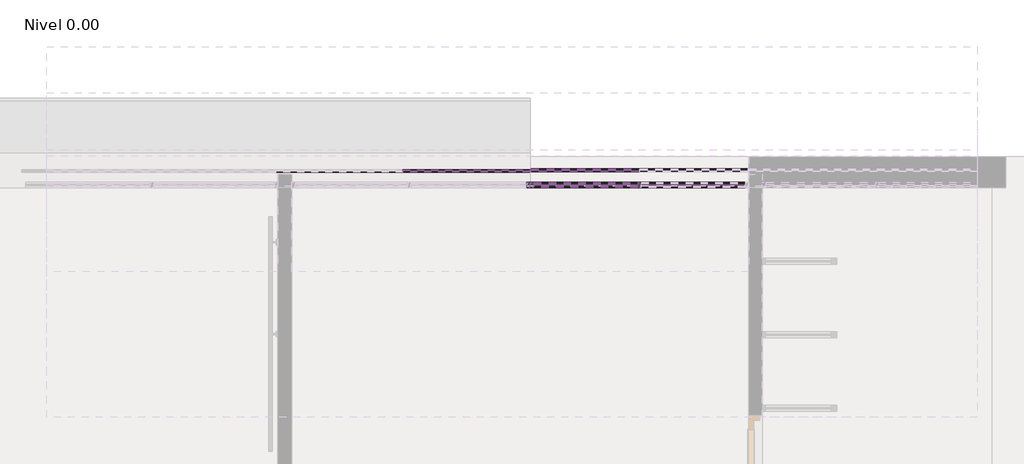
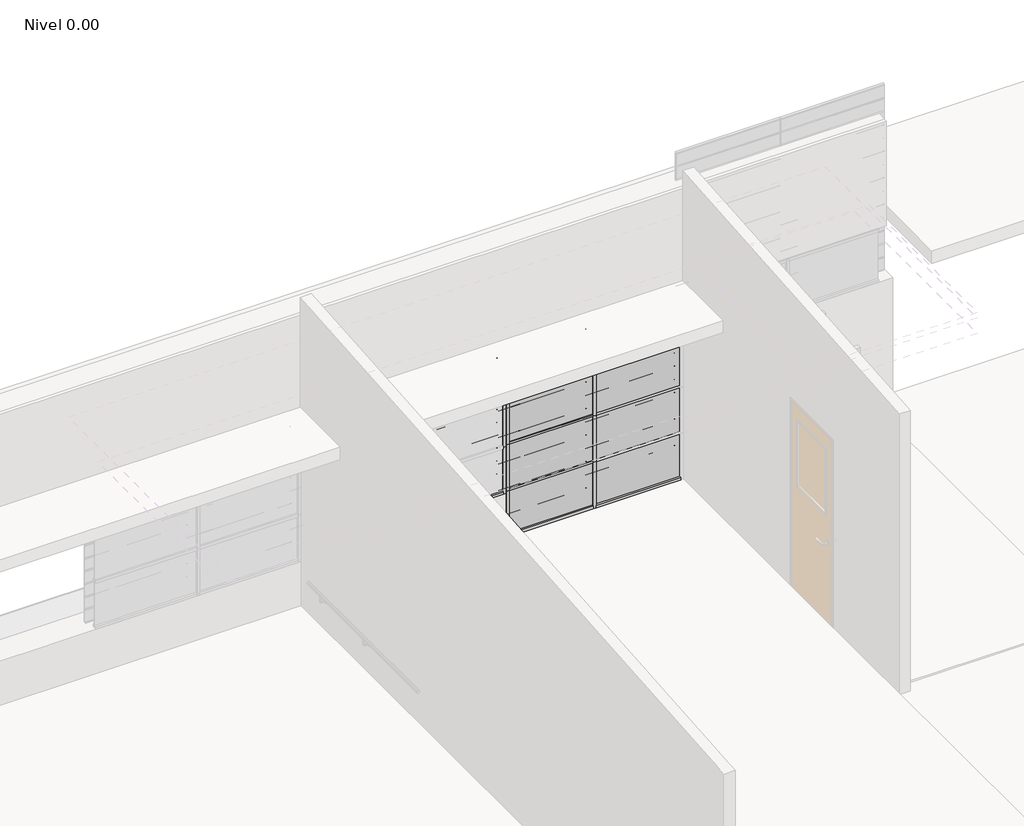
# One storey, part 19 of 27: 97 members, 38 plates.
"""IFC4 building model written with IfcOpenShell, lengths in millimetres."""

from ifc_helpers import new_model, si_unit, origin, place, context, project, spatial, transform, mapped, element, save
from components import circular_mullion_f540d6b4, circular_mullion_e1cfff8a, l_corner_mullion_285056ba, l_corner_mullion_de296168, rectangular_mullion_fd73bc33, rectangular_mullion_62a8ddbd, rectangular_mullion_2cbd8fee, rectangular_mullion_4ef2b083, rectangular_mullion_f7ba8490, rectangular_mullion_caa13081, rectangular_mullion_4732226b, rectangular_mullion_bccfeea3, rectangular_mullion_bc77bd75, rectangular_mullion_9fa35bb9, system_panel_6a406881, system_panel_bc75342b, system_panel_30204105, system_panel_792cbea5, system_panel_glazed_32a98a9a, system_panel_glazed_62ff626e

model = new_model("IFC4")

# Units and contexts
model_context = context("Model", 3, world=origin())
ifc_project = project(units=[si_unit("LENGTHUNIT", "METRE", prefix="MILLI")], contexts=[model_context])

# Site, building, storey
site = spatial("IfcSite", under=ifc_project)
building = spatial("IfcBuilding", under=site)
storey = spatial("IfcBuildingStorey", under=building, Name="Nivel 0.00", Elevation=0.0)

# Members
placement = place(None, origin())
circular_mullion_shape = circular_mullion_f540d6b4(model_context)
element("IfcMember", 1, ObjectType="Circular Mullion : ARQ_HERR_16mm", at=placement, inside=storey, context=model_context, shape_type="MappedRepresentation", body=[
    mapped(circular_mullion_shape, transform((227.3836074, 6959.4278548, 645.4545455), x_axis=(0.0, 0.0, 1.0), y_axis=(0.0, 1.0, 0.0), z_axis=(-1.0, 0.0, 0.0))),
])
element("IfcMember", 2, ObjectType="Circular Mullion : ARQ_HERR_16mm", at=placement, inside=storey, context=model_context, shape_type="MappedRepresentation", body=[
    mapped(circular_mullion_shape, transform((227.3836074, 6959.4278548, 790.9090909), x_axis=(0.0, 0.0, 1.0), y_axis=(0.0, 1.0, 0.0), z_axis=(-1.0, 0.0, 0.0))),
])
element("IfcMember", 3, ObjectType="Circular Mullion : ARQ_HERR_16mm", at=placement, inside=storey, context=model_context, shape_type="MappedRepresentation", body=[
    mapped(circular_mullion_shape, transform((227.3836074, 6959.4278548, 936.3636364), x_axis=(0.0, 0.0, 1.0), y_axis=(0.0, 1.0, 0.0), z_axis=(-1.0, 0.0, 0.0))),
])
element("IfcMember", 4, ObjectType="Circular Mullion : ARQ_HERR_16mm", at=placement, inside=storey, context=model_context, shape_type="MappedRepresentation", body=[
    mapped(circular_mullion_shape, transform((227.3836074, 6959.4278548, 1081.8181818), x_axis=(0.0, 0.0, 1.0), y_axis=(0.0, 1.0, 0.0), z_axis=(-1.0, 0.0, 0.0))),
])
element("IfcMember", 5, ObjectType="Circular Mullion : ARQ_HERR_16mm", at=placement, inside=storey, context=model_context, shape_type="MappedRepresentation", body=[
    mapped(circular_mullion_shape, transform((227.3836074, 6959.4278548, 1227.2727273), x_axis=(0.0, 0.0, 1.0), y_axis=(0.0, 1.0, 0.0), z_axis=(-1.0, 0.0, 0.0))),
])
element("IfcMember", 6, ObjectType="Circular Mullion : ARQ_HERR_16mm", at=placement, inside=storey, context=model_context, shape_type="MappedRepresentation", body=[
    mapped(circular_mullion_shape, transform((227.3836074, 6959.4278548, 1372.7272727), x_axis=(0.0, 0.0, 1.0), y_axis=(0.0, 1.0, 0.0), z_axis=(-1.0, 0.0, 0.0))),
])
element("IfcMember", 7, ObjectType="Circular Mullion : ARQ_HERR_16mm", at=placement, inside=storey, context=model_context, shape_type="MappedRepresentation", body=[
    mapped(circular_mullion_shape, transform((227.3836074, 6959.4278548, 1518.1818182), x_axis=(0.0, 0.0, 1.0), y_axis=(0.0, 1.0, 0.0), z_axis=(-1.0, 0.0, 0.0))),
])
element("IfcMember", 8, ObjectType="Circular Mullion : ARQ_HERR_16mm", at=placement, inside=storey, context=model_context, shape_type="MappedRepresentation", body=[
    mapped(circular_mullion_shape, transform((227.3836074, 6959.4278548, 1663.6363636), x_axis=(0.0, 0.0, 1.0), y_axis=(0.0, 1.0, 0.0), z_axis=(-1.0, 0.0, 0.0))),
])
element("IfcMember", 9, ObjectType="Circular Mullion : ARQ_HERR_16mm", at=placement, inside=storey, context=model_context, shape_type="MappedRepresentation", body=[
    mapped(circular_mullion_shape, transform((227.3836074, 6959.4278548, 1809.0909091), x_axis=(0.0, 0.0, 1.0), y_axis=(0.0, 1.0, 0.0), z_axis=(-1.0, 0.0, 0.0))),
])
element("IfcMember", 10, ObjectType="Circular Mullion : ARQ_HERR_16mm", at=placement, inside=storey, context=model_context, shape_type="MappedRepresentation", body=[
    mapped(circular_mullion_shape, transform((227.3836074, 6959.4278548, 1954.5454545), x_axis=(0.0, 0.0, 1.0), y_axis=(0.0, 1.0, 0.0), z_axis=(-1.0, 0.0, 0.0))),
])
circular_mullion_2_shape = circular_mullion_e1cfff8a(model_context)
element("IfcMember", 11, ObjectType="Circular Mullion : ARQ_HERR_16mm", at=placement, inside=storey, context=model_context, shape_type="MappedRepresentation", body=[
    mapped(circular_mullion_2_shape, transform((2281.6892154, 6959.43912, 150.0), x_axis=(0.0, 0.0, 1.0), y_axis=(0.0, -1.0, 0.0), z_axis=(1.0, 0.0, 0.0))),
])
element("IfcMember", 12, ObjectType="Circular Mullion : ARQ_HERR_16mm", at=placement, inside=storey, context=model_context, shape_type="MappedRepresentation", body=[
    mapped(circular_mullion_2_shape, transform((2281.6892154, 6959.43912, 300.0), x_axis=(0.0, 0.0, 1.0), y_axis=(0.0, -1.0, 0.0), z_axis=(1.0, 0.0, 0.0))),
])
element("IfcMember", 13, ObjectType="Circular Mullion : ARQ_HERR_16mm", at=placement, inside=storey, context=model_context, shape_type="MappedRepresentation", body=[
    mapped(circular_mullion_2_shape, transform((2281.6892154, 6959.43912, 450.0), x_axis=(0.0, 0.0, 1.0), y_axis=(0.0, -1.0, 0.0), z_axis=(1.0, 0.0, 0.0))),
])
element("IfcMember", 14, ObjectType="Circular Mullion : ARQ_HERR_16mm", at=placement, inside=storey, context=model_context, shape_type="MappedRepresentation", body=[
    mapped(circular_mullion_2_shape, transform((2281.6892154, 6959.43912, 600.0), x_axis=(0.0, 0.0, 1.0), y_axis=(0.0, -1.0, 0.0), z_axis=(1.0, 0.0, 0.0))),
])
element("IfcMember", 15, ObjectType="Circular Mullion : ARQ_HERR_16mm", at=placement, inside=storey, context=model_context, shape_type="MappedRepresentation", body=[
    mapped(circular_mullion_2_shape, transform((2281.6892154, 6959.43912, 750.0), x_axis=(0.0, 0.0, 1.0), y_axis=(0.0, -1.0, 0.0), z_axis=(1.0, 0.0, 0.0))),
])
element("IfcMember", 16, ObjectType="Circular Mullion : ARQ_HERR_16mm", at=placement, inside=storey, context=model_context, shape_type="MappedRepresentation", body=[
    mapped(circular_mullion_2_shape, transform((2281.6892154, 6959.43912, 900.0), x_axis=(0.0, 0.0, 1.0), y_axis=(0.0, -1.0, 0.0), z_axis=(1.0, 0.0, 0.0))),
])
element("IfcMember", 17, ObjectType="Circular Mullion : ARQ_HERR_16mm", at=placement, inside=storey, context=model_context, shape_type="MappedRepresentation", body=[
    mapped(circular_mullion_2_shape, transform((2281.6892154, 6959.43912, 1050.0), x_axis=(0.0, 0.0, 1.0), y_axis=(0.0, -1.0, 0.0), z_axis=(1.0, 0.0, 0.0))),
])
element("IfcMember", 18, ObjectType="Circular Mullion : ARQ_HERR_16mm", at=placement, inside=storey, context=model_context, shape_type="MappedRepresentation", body=[
    mapped(circular_mullion_2_shape, transform((2281.6892154, 6959.43912, 1200.0), x_axis=(0.0, 0.0, 1.0), y_axis=(0.0, -1.0, 0.0), z_axis=(1.0, 0.0, 0.0))),
])
element("IfcMember", 19, ObjectType="Circular Mullion : ARQ_HERR_16mm", at=placement, inside=storey, context=model_context, shape_type="MappedRepresentation", body=[
    mapped(circular_mullion_2_shape, transform((2281.6892154, 6959.43912, 1350.0), x_axis=(0.0, 0.0, 1.0), y_axis=(0.0, -1.0, 0.0), z_axis=(1.0, 0.0, 0.0))),
])
element("IfcMember", 20, ObjectType="Circular Mullion : ARQ_HERR_16mm", at=placement, inside=storey, context=model_context, shape_type="MappedRepresentation", body=[
    mapped(circular_mullion_2_shape, transform((2281.6892154, 6959.43912, 1500.0), x_axis=(0.0, 0.0, 1.0), y_axis=(0.0, -1.0, 0.0), z_axis=(1.0, 0.0, 0.0))),
])
element("IfcMember", 21, ObjectType="Circular Mullion : ARQ_HERR_16mm", at=placement, inside=storey, context=model_context, shape_type="MappedRepresentation", body=[
    mapped(circular_mullion_2_shape, transform((2281.6892154, 6959.43912, 1650.0), x_axis=(0.0, 0.0, 1.0), y_axis=(0.0, -1.0, 0.0), z_axis=(1.0, 0.0, 0.0))),
])
element("IfcMember", 22, ObjectType="Circular Mullion : ARQ_HERR_16mm", at=placement, inside=storey, context=model_context, shape_type="MappedRepresentation", body=[
    mapped(circular_mullion_2_shape, transform((2281.6892154, 6959.43912, 1800.0), x_axis=(0.0, 0.0, 1.0), y_axis=(0.0, -1.0, 0.0), z_axis=(1.0, 0.0, 0.0))),
])
element("IfcMember", 23, ObjectType="Circular Mullion : ARQ_HERR_16mm", at=placement, inside=storey, context=model_context, shape_type="MappedRepresentation", body=[
    mapped(circular_mullion_2_shape, transform((2281.6892154, 6959.43912, 1950.0), x_axis=(0.0, 0.0, 1.0), y_axis=(0.0, -1.0, 0.0), z_axis=(1.0, 0.0, 0.0))),
])
l_corner_mullion_shape = l_corner_mullion_285056ba(model_context)
element("IfcMember", 24, ObjectType="L Corner Mullion : ARQ_HERR_15X6mm", at=placement, inside=storey, context=model_context, shape_type="MappedRepresentation", body=[
    mapped(l_corner_mullion_shape, transform((227.3836074, 6959.4278548, 2100.0), x_axis=(0.0, 0.0, 1.0), y_axis=(0.0, 1.0, 0.0), z_axis=(-1.0, 0.0, 0.0))),
])
element("IfcMember", 25, ObjectType="L Corner Mullion : ARQ_HERR_15X6mm", at=placement, inside=storey, context=model_context, shape_type="MappedRepresentation", body=[
    mapped(l_corner_mullion_shape, transform((1328.7169409, 6959.4278548, 500.0), x_axis=(0.0, 0.0, -1.0), y_axis=(0.0, 1.0, 0.0), z_axis=(1.0, 0.0, 0.0))),
])
element("IfcMember", 26, ObjectType="L Corner Mullion : ARQ_HERR_15X6mm", at=placement, inside=storey, context=model_context, shape_type="MappedRepresentation", body=[
    mapped(l_corner_mullion_shape, transform((221.3836074, 6959.4278548, 500.0), x_axis=(0.0, 0.0, -1.0), y_axis=(0.0, 1.0, 0.0), z_axis=(1.0, 0.0, 0.0))),
])
l_corner_mullion_2_shape = l_corner_mullion_de296168(model_context)
element("IfcMember", 27, ObjectType="L Corner Mullion : ARQ_HERR_15X6mm", at=placement, inside=storey, context=model_context, shape_type="MappedRepresentation", body=[
    mapped(l_corner_mullion_2_shape, transform((2281.6892154, 6959.43912, 2100.0), x_axis=(0.0, 0.0, 1.0), y_axis=(0.0, -1.0, 0.0), z_axis=(1.0, 0.0, 0.0))),
])
element("IfcMember", 28, ObjectType="L Corner Mullion : ARQ_HERR_15X6mm", at=placement, inside=storey, context=model_context, shape_type="MappedRepresentation", body=[
    mapped(l_corner_mullion_2_shape, transform((1340.7169409, 6959.43912, 0.0), x_axis=(0.0, 0.0, -1.0), y_axis=(0.0, -1.0, 0.0), z_axis=(-1.0, 0.0, 0.0))),
])
element("IfcMember", 29, ObjectType="L Corner Mullion : ARQ_HERR_15X6mm", at=placement, inside=storey, context=model_context, shape_type="MappedRepresentation", body=[
    mapped(l_corner_mullion_2_shape, transform((2287.6892154, 6959.43912, 0.0), x_axis=(0.0, 0.0, -1.0), y_axis=(0.0, -1.0, 0.0), z_axis=(-1.0, 0.0, 0.0))),
])
rectangular_mullion_shape = rectangular_mullion_fd73bc33(model_context)
element("IfcMember", 30, ObjectType="Rectangular Mullion : ARQ_TV_MULL_50x30mm", at=placement, inside=storey, context=model_context, shape_type="MappedRepresentation", body=[
    mapped(rectangular_mullion_shape, transform((2284.6892154, 6834.4460974, 0.0), x_axis=(1.0, 0.0, 0.0), y_axis=(0.0, -1.0, 0.0), z_axis=(0.0, 0.0, -1.0))),
])
element("IfcMember", 31, ObjectType="Rectangular Mullion : ARQ_TV_MULL_50x30mm", at=placement, inside=storey, context=model_context, shape_type="MappedRepresentation", body=[
    mapped(rectangular_mullion_shape, transform((2284.6892154, 6834.4460974, 525.0), x_axis=(1.0, 0.0, 0.0), y_axis=(0.0, -1.0, 0.0), z_axis=(0.0, 0.0, -1.0))),
])
element("IfcMember", 32, ObjectType="Rectangular Mullion : ARQ_TV_MULL_50x30mm", at=placement, inside=storey, context=model_context, shape_type="MappedRepresentation", body=[
    mapped(rectangular_mullion_shape, transform((2284.6892154, 6834.4460974, 1050.0), x_axis=(1.0, 0.0, 0.0), y_axis=(0.0, -1.0, 0.0), z_axis=(0.0, 0.0, -1.0))),
])
element("IfcMember", 33, ObjectType="Rectangular Mullion : ARQ_TV_MULL_50x30mm", at=placement, inside=storey, context=model_context, shape_type="MappedRepresentation", body=[
    mapped(rectangular_mullion_shape, transform((2284.6892154, 6834.4460974, 1575.0), x_axis=(1.0, 0.0, 0.0), y_axis=(0.0, -1.0, 0.0), z_axis=(0.0, 0.0, -1.0))),
])
rectangular_mullion_2_shape = rectangular_mullion_62a8ddbd(model_context)
element("IfcMember", 34, ObjectType="Rectangular Mullion : ARQ_TV_MULL_50x30mm", at=placement, inside=storey, context=model_context, shape_type="MappedRepresentation", body=[
    mapped(rectangular_mullion_2_shape, transform((1334.7169409, 6834.4460974, 2100.0), x_axis=(-1.0, 0.0, 0.0), y_axis=(0.0, -1.0, 0.0), z_axis=(0.0, 0.0, 1.0))),
])
element("IfcMember", 35, ObjectType="Rectangular Mullion : ARQ_TV_MULL_50x30mm", at=placement, inside=storey, context=model_context, shape_type="MappedRepresentation", body=[
    mapped(rectangular_mullion_2_shape, transform((1334.7169409, 6834.4460974, 525.0), x_axis=(-1.0, 0.0, 0.0), y_axis=(0.0, -1.0, 0.0), z_axis=(0.0, 0.0, 1.0))),
])
element("IfcMember", 36, ObjectType="Rectangular Mullion : ARQ_TV_MULL_50x30mm", at=placement, inside=storey, context=model_context, shape_type="MappedRepresentation", body=[
    mapped(rectangular_mullion_2_shape, transform((1334.7169409, 6834.4460974, 1050.0), x_axis=(-1.0, 0.0, 0.0), y_axis=(0.0, -1.0, 0.0), z_axis=(0.0, 0.0, 1.0))),
])
element("IfcMember", 37, ObjectType="Rectangular Mullion : ARQ_TV_MULL_50x30mm", at=placement, inside=storey, context=model_context, shape_type="MappedRepresentation", body=[
    mapped(rectangular_mullion_2_shape, transform((1334.7169409, 6834.4460974, 1575.0), x_axis=(-1.0, 0.0, 0.0), y_axis=(0.0, -1.0, 0.0), z_axis=(0.0, 0.0, 1.0))),
])
rectangular_mullion_3_shape = rectangular_mullion_2cbd8fee(model_context)
element("IfcMember", 38, ObjectType="Rectangular Mullion : ARQ_TV_MULL_50x30mm", at=placement, inside=storey, context=model_context, shape_type="MappedRepresentation", body=[
    mapped(rectangular_mullion_3_shape, transform((2269.6892154, 6834.4460974, 2100.0), x_axis=(0.0, 0.0, 1.0), y_axis=(0.0, -1.0, 0.0), z_axis=(1.0, 0.0, 0.0))),
])
element("IfcMember", 39, ObjectType="Rectangular Mullion : ARQ_TV_MULL_50x30mm", at=placement, inside=storey, context=model_context, shape_type="MappedRepresentation", body=[
    mapped(rectangular_mullion_3_shape, transform((1364.7169409, 6834.4460974, 0.0), x_axis=(0.0, 0.0, -1.0), y_axis=(0.0, -1.0, 0.0), z_axis=(-1.0, 0.0, 0.0))),
])
element("IfcMember", 40, ObjectType="Rectangular Mullion : ARQ_TV_MULL_50x30mm", at=placement, inside=storey, context=model_context, shape_type="MappedRepresentation", body=[
    mapped(rectangular_mullion_3_shape, transform((2299.6892154, 6834.4460974, 0.0), x_axis=(0.0, 0.0, -1.0), y_axis=(0.0, -1.0, 0.0), z_axis=(-1.0, 0.0, 0.0))),
])
rectangular_mullion_4_shape = rectangular_mullion_4ef2b083(model_context)
element("IfcMember", 41, ObjectType="Rectangular Mullion : ARQ_TV_MULL_30x20mm", at=placement, inside=storey, context=model_context, shape_type="MappedRepresentation", body=[
    mapped(rectangular_mullion_4_shape, transform((2269.6892154, 6834.4460974, 525.0), x_axis=(0.0, 0.0, 1.0), y_axis=(0.0, -1.0, 0.0), z_axis=(1.0, 0.0, 0.0))),
])
element("IfcMember", 42, ObjectType="Rectangular Mullion : ARQ_TV_MULL_30x20mm", at=placement, inside=storey, context=model_context, shape_type="MappedRepresentation", body=[
    mapped(rectangular_mullion_4_shape, transform((2269.6892154, 6834.4460974, 1050.0), x_axis=(0.0, 0.0, 1.0), y_axis=(0.0, -1.0, 0.0), z_axis=(1.0, 0.0, 0.0))),
])
element("IfcMember", 43, ObjectType="Rectangular Mullion : ARQ_TV_MULL_30x20mm", at=placement, inside=storey, context=model_context, shape_type="MappedRepresentation", body=[
    mapped(rectangular_mullion_4_shape, transform((2269.6892154, 6834.4460974, 1575.0), x_axis=(0.0, 0.0, 1.0), y_axis=(0.0, -1.0, 0.0), z_axis=(1.0, 0.0, 0.0))),
])
rectangular_mullion_5_shape = rectangular_mullion_f7ba8490(model_context)
element("IfcMember", 44, ObjectType="Rectangular Mullion : ARQ_TV_MULL_50x30mm", at=placement, inside=storey, context=model_context, shape_type="MappedRepresentation", body=[
    mapped(rectangular_mullion_5_shape, transform((1334.7169409, 6834.4460974, 2100.0), x_axis=(1.0, 0.0, 0.0), y_axis=(0.0, 1.0, 0.0), z_axis=(0.0, 0.0, 1.0))),
])
element("IfcMember", 45, ObjectType="Rectangular Mullion : ARQ_TV_MULL_50x30mm", at=placement, inside=storey, context=model_context, shape_type="MappedRepresentation", body=[
    mapped(rectangular_mullion_5_shape, transform((1334.7169409, 6834.4460974, 1033.3333333), x_axis=(1.0, 0.0, 0.0), y_axis=(0.0, 1.0, 0.0), z_axis=(0.0, 0.0, 1.0))),
])
element("IfcMember", 46, ObjectType="Rectangular Mullion : ARQ_TV_MULL_50x30mm", at=placement, inside=storey, context=model_context, shape_type="MappedRepresentation", body=[
    mapped(rectangular_mullion_5_shape, transform((1334.7169409, 6834.4460974, 1566.6666667), x_axis=(1.0, 0.0, 0.0), y_axis=(0.0, 1.0, 0.0), z_axis=(0.0, 0.0, 1.0))),
])
rectangular_mullion_6_shape = rectangular_mullion_caa13081(model_context)
element("IfcMember", 47, ObjectType="Rectangular Mullion : ARQ_TV_MULL_50x30mm", at=placement, inside=storey, context=model_context, shape_type="MappedRepresentation", body=[
    mapped(rectangular_mullion_6_shape, transform((1304.7169409, 6834.4460974, 500.0), x_axis=(0.0, 0.0, -1.0), y_axis=(0.0, 1.0, 0.0), z_axis=(1.0, 0.0, 0.0))),
])
rectangular_mullion_7_shape = rectangular_mullion_4732226b(model_context)
element("IfcMember", 48, ObjectType="Rectangular Mullion : ARQ_HERR_15X6mm", at=placement, inside=storey, context=model_context, shape_type="MappedRepresentation", body=[
    mapped(rectangular_mullion_7_shape, transform((2284.6892154, 6959.43912, 0.0), x_axis=(1.0, 0.0, 0.0), y_axis=(0.0, -1.0, 0.0), z_axis=(0.0, 0.0, -1.0))),
])
element("IfcMember", 49, ObjectType="Rectangular Mullion : ARQ_HERR_15X6mm", at=placement, inside=storey, context=model_context, shape_type="MappedRepresentation", body=[
    mapped(rectangular_mullion_7_shape, transform((2284.6892154, 6959.43912, 150.0), x_axis=(1.0, 0.0, 0.0), y_axis=(0.0, -1.0, 0.0), z_axis=(0.0, 0.0, -1.0))),
])
element("IfcMember", 50, ObjectType="Rectangular Mullion : ARQ_HERR_15X6mm", at=placement, inside=storey, context=model_context, shape_type="MappedRepresentation", body=[
    mapped(rectangular_mullion_7_shape, transform((2284.6892154, 6959.43912, 300.0), x_axis=(1.0, 0.0, 0.0), y_axis=(0.0, -1.0, 0.0), z_axis=(0.0, 0.0, -1.0))),
])
element("IfcMember", 51, ObjectType="Rectangular Mullion : ARQ_HERR_15X6mm", at=placement, inside=storey, context=model_context, shape_type="MappedRepresentation", body=[
    mapped(rectangular_mullion_7_shape, transform((2284.6892154, 6959.43912, 450.0), x_axis=(1.0, 0.0, 0.0), y_axis=(0.0, -1.0, 0.0), z_axis=(0.0, 0.0, -1.0))),
])
element("IfcMember", 52, ObjectType="Rectangular Mullion : ARQ_HERR_15X6mm", at=placement, inside=storey, context=model_context, shape_type="MappedRepresentation", body=[
    mapped(rectangular_mullion_7_shape, transform((2284.6892154, 6959.43912, 600.0), x_axis=(1.0, 0.0, 0.0), y_axis=(0.0, -1.0, 0.0), z_axis=(0.0, 0.0, -1.0))),
])
element("IfcMember", 53, ObjectType="Rectangular Mullion : ARQ_HERR_15X6mm", at=placement, inside=storey, context=model_context, shape_type="MappedRepresentation", body=[
    mapped(rectangular_mullion_7_shape, transform((2284.6892154, 6959.43912, 750.0), x_axis=(1.0, 0.0, 0.0), y_axis=(0.0, -1.0, 0.0), z_axis=(0.0, 0.0, -1.0))),
])
element("IfcMember", 54, ObjectType="Rectangular Mullion : ARQ_HERR_15X6mm", at=placement, inside=storey, context=model_context, shape_type="MappedRepresentation", body=[
    mapped(rectangular_mullion_7_shape, transform((2284.6892154, 6959.43912, 900.0), x_axis=(1.0, 0.0, 0.0), y_axis=(0.0, -1.0, 0.0), z_axis=(0.0, 0.0, -1.0))),
])
element("IfcMember", 55, ObjectType="Rectangular Mullion : ARQ_HERR_15X6mm", at=placement, inside=storey, context=model_context, shape_type="MappedRepresentation", body=[
    mapped(rectangular_mullion_7_shape, transform((2284.6892154, 6959.43912, 1050.0), x_axis=(1.0, 0.0, 0.0), y_axis=(0.0, -1.0, 0.0), z_axis=(0.0, 0.0, -1.0))),
])
element("IfcMember", 56, ObjectType="Rectangular Mullion : ARQ_HERR_15X6mm", at=placement, inside=storey, context=model_context, shape_type="MappedRepresentation", body=[
    mapped(rectangular_mullion_7_shape, transform((2284.6892154, 6959.43912, 1200.0), x_axis=(1.0, 0.0, 0.0), y_axis=(0.0, -1.0, 0.0), z_axis=(0.0, 0.0, -1.0))),
])
element("IfcMember", 57, ObjectType="Rectangular Mullion : ARQ_HERR_15X6mm", at=placement, inside=storey, context=model_context, shape_type="MappedRepresentation", body=[
    mapped(rectangular_mullion_7_shape, transform((2284.6892154, 6959.43912, 1350.0), x_axis=(1.0, 0.0, 0.0), y_axis=(0.0, -1.0, 0.0), z_axis=(0.0, 0.0, -1.0))),
])
element("IfcMember", 58, ObjectType="Rectangular Mullion : ARQ_HERR_15X6mm", at=placement, inside=storey, context=model_context, shape_type="MappedRepresentation", body=[
    mapped(rectangular_mullion_7_shape, transform((2284.6892154, 6959.43912, 1500.0), x_axis=(1.0, 0.0, 0.0), y_axis=(0.0, -1.0, 0.0), z_axis=(0.0, 0.0, -1.0))),
])
element("IfcMember", 59, ObjectType="Rectangular Mullion : ARQ_HERR_15X6mm", at=placement, inside=storey, context=model_context, shape_type="MappedRepresentation", body=[
    mapped(rectangular_mullion_7_shape, transform((2284.6892154, 6959.43912, 1650.0), x_axis=(1.0, 0.0, 0.0), y_axis=(0.0, -1.0, 0.0), z_axis=(0.0, 0.0, -1.0))),
])
element("IfcMember", 60, ObjectType="Rectangular Mullion : ARQ_HERR_15X6mm", at=placement, inside=storey, context=model_context, shape_type="MappedRepresentation", body=[
    mapped(rectangular_mullion_7_shape, transform((2284.6892154, 6959.43912, 1800.0), x_axis=(1.0, 0.0, 0.0), y_axis=(0.0, -1.0, 0.0), z_axis=(0.0, 0.0, -1.0))),
])
rectangular_mullion_8_shape = rectangular_mullion_bccfeea3(model_context)
element("IfcMember", 61, ObjectType="Rectangular Mullion : ARQ_HERR_15X6mm", at=placement, inside=storey, context=model_context, shape_type="MappedRepresentation", body=[
    mapped(rectangular_mullion_8_shape, transform((1334.7169409, 6959.43912, 150.0), x_axis=(-1.0, 0.0, 0.0), y_axis=(0.0, -1.0, 0.0), z_axis=(0.0, 0.0, 1.0))),
])
element("IfcMember", 62, ObjectType="Rectangular Mullion : ARQ_HERR_15X6mm", at=placement, inside=storey, context=model_context, shape_type="MappedRepresentation", body=[
    mapped(rectangular_mullion_8_shape, transform((1334.7169409, 6959.43912, 300.0), x_axis=(-1.0, 0.0, 0.0), y_axis=(0.0, -1.0, 0.0), z_axis=(0.0, 0.0, 1.0))),
])
element("IfcMember", 63, ObjectType="Rectangular Mullion : ARQ_HERR_15X6mm", at=placement, inside=storey, context=model_context, shape_type="MappedRepresentation", body=[
    mapped(rectangular_mullion_8_shape, transform((1334.7169409, 6959.43912, 450.0), x_axis=(-1.0, 0.0, 0.0), y_axis=(0.0, -1.0, 0.0), z_axis=(0.0, 0.0, 1.0))),
])
element("IfcMember", 64, ObjectType="Rectangular Mullion : ARQ_HERR_15X6mm", at=placement, inside=storey, context=model_context, shape_type="MappedRepresentation", body=[
    mapped(rectangular_mullion_8_shape, transform((1334.7169409, 6959.43912, 600.0), x_axis=(-1.0, 0.0, 0.0), y_axis=(0.0, -1.0, 0.0), z_axis=(0.0, 0.0, 1.0))),
])
element("IfcMember", 65, ObjectType="Rectangular Mullion : ARQ_HERR_15X6mm", at=placement, inside=storey, context=model_context, shape_type="MappedRepresentation", body=[
    mapped(rectangular_mullion_8_shape, transform((1334.7169409, 6959.43912, 750.0), x_axis=(-1.0, 0.0, 0.0), y_axis=(0.0, -1.0, 0.0), z_axis=(0.0, 0.0, 1.0))),
])
element("IfcMember", 66, ObjectType="Rectangular Mullion : ARQ_HERR_15X6mm", at=placement, inside=storey, context=model_context, shape_type="MappedRepresentation", body=[
    mapped(rectangular_mullion_8_shape, transform((1334.7169409, 6959.43912, 900.0), x_axis=(-1.0, 0.0, 0.0), y_axis=(0.0, -1.0, 0.0), z_axis=(0.0, 0.0, 1.0))),
])
element("IfcMember", 67, ObjectType="Rectangular Mullion : ARQ_HERR_15X6mm", at=placement, inside=storey, context=model_context, shape_type="MappedRepresentation", body=[
    mapped(rectangular_mullion_8_shape, transform((1334.7169409, 6959.43912, 1050.0), x_axis=(-1.0, 0.0, 0.0), y_axis=(0.0, -1.0, 0.0), z_axis=(0.0, 0.0, 1.0))),
])
element("IfcMember", 68, ObjectType="Rectangular Mullion : ARQ_HERR_15X6mm", at=placement, inside=storey, context=model_context, shape_type="MappedRepresentation", body=[
    mapped(rectangular_mullion_8_shape, transform((1334.7169409, 6959.43912, 1200.0), x_axis=(-1.0, 0.0, 0.0), y_axis=(0.0, -1.0, 0.0), z_axis=(0.0, 0.0, 1.0))),
])
element("IfcMember", 69, ObjectType="Rectangular Mullion : ARQ_HERR_15X6mm", at=placement, inside=storey, context=model_context, shape_type="MappedRepresentation", body=[
    mapped(rectangular_mullion_8_shape, transform((1334.7169409, 6959.43912, 1350.0), x_axis=(-1.0, 0.0, 0.0), y_axis=(0.0, -1.0, 0.0), z_axis=(0.0, 0.0, 1.0))),
])
element("IfcMember", 70, ObjectType="Rectangular Mullion : ARQ_HERR_15X6mm", at=placement, inside=storey, context=model_context, shape_type="MappedRepresentation", body=[
    mapped(rectangular_mullion_8_shape, transform((1334.7169409, 6959.43912, 1500.0), x_axis=(-1.0, 0.0, 0.0), y_axis=(0.0, -1.0, 0.0), z_axis=(0.0, 0.0, 1.0))),
])
element("IfcMember", 71, ObjectType="Rectangular Mullion : ARQ_HERR_15X6mm", at=placement, inside=storey, context=model_context, shape_type="MappedRepresentation", body=[
    mapped(rectangular_mullion_8_shape, transform((1334.7169409, 6959.43912, 1650.0), x_axis=(-1.0, 0.0, 0.0), y_axis=(0.0, -1.0, 0.0), z_axis=(0.0, 0.0, 1.0))),
])
element("IfcMember", 72, ObjectType="Rectangular Mullion : ARQ_HERR_15X6mm", at=placement, inside=storey, context=model_context, shape_type="MappedRepresentation", body=[
    mapped(rectangular_mullion_8_shape, transform((1334.7169409, 6959.43912, 1800.0), x_axis=(-1.0, 0.0, 0.0), y_axis=(0.0, -1.0, 0.0), z_axis=(0.0, 0.0, 1.0))),
])
element("IfcMember", 73, ObjectType="Rectangular Mullion : ARQ_HERR_15X6mm", at=placement, inside=storey, context=model_context, shape_type="MappedRepresentation", body=[
    mapped(rectangular_mullion_8_shape, transform((1334.7169409, 6959.43912, 1950.0), x_axis=(-1.0, 0.0, 0.0), y_axis=(0.0, -1.0, 0.0), z_axis=(0.0, 0.0, 1.0))),
])
element("IfcMember", 74, ObjectType="Rectangular Mullion : ARQ_HERR_15X6mm", at=placement, inside=storey, context=model_context, shape_type="MappedRepresentation", body=[
    mapped(rectangular_mullion_7_shape, transform((2284.6892154, 6959.43912, 1950.0), x_axis=(1.0, 0.0, 0.0), y_axis=(0.0, -1.0, 0.0), z_axis=(0.0, 0.0, -1.0))),
])
element("IfcMember", 75, ObjectType="Rectangular Mullion : ARQ_HERR_15X6mm", at=placement, inside=storey, context=model_context, shape_type="MappedRepresentation", body=[
    mapped(rectangular_mullion_8_shape, transform((1334.7169409, 6959.43912, 2100.0), x_axis=(-1.0, 0.0, 0.0), y_axis=(0.0, -1.0, 0.0), z_axis=(0.0, 0.0, 1.0))),
])
rectangular_mullion_9_shape = rectangular_mullion_bc77bd75(model_context)
element("IfcMember", 76, ObjectType="Rectangular Mullion : ARQ_HERR_15X6mm", at=placement, inside=storey, context=model_context, shape_type="MappedRepresentation", body=[
    mapped(rectangular_mullion_9_shape, transform((224.3836074, 6959.4278548, 500.0), x_axis=(-1.0, 0.0, 0.0), y_axis=(0.0, 1.0, 0.0), z_axis=(0.0, 0.0, -1.0))),
])
element("IfcMember", 77, ObjectType="Rectangular Mullion : ARQ_HERR_15X6mm", at=placement, inside=storey, context=model_context, shape_type="MappedRepresentation", body=[
    mapped(rectangular_mullion_9_shape, transform((224.3836074, 6959.4278548, 645.4545455), x_axis=(-1.0, 0.0, 0.0), y_axis=(0.0, 1.0, 0.0), z_axis=(0.0, 0.0, -1.0))),
])
element("IfcMember", 78, ObjectType="Rectangular Mullion : ARQ_HERR_15X6mm", at=placement, inside=storey, context=model_context, shape_type="MappedRepresentation", body=[
    mapped(rectangular_mullion_9_shape, transform((224.3836074, 6959.4278548, 790.9090909), x_axis=(-1.0, 0.0, 0.0), y_axis=(0.0, 1.0, 0.0), z_axis=(0.0, 0.0, -1.0))),
])
element("IfcMember", 79, ObjectType="Rectangular Mullion : ARQ_HERR_15X6mm", at=placement, inside=storey, context=model_context, shape_type="MappedRepresentation", body=[
    mapped(rectangular_mullion_9_shape, transform((224.3836074, 6959.4278548, 936.3636364), x_axis=(-1.0, 0.0, 0.0), y_axis=(0.0, 1.0, 0.0), z_axis=(0.0, 0.0, -1.0))),
])
element("IfcMember", 80, ObjectType="Rectangular Mullion : ARQ_HERR_15X6mm", at=placement, inside=storey, context=model_context, shape_type="MappedRepresentation", body=[
    mapped(rectangular_mullion_9_shape, transform((224.3836074, 6959.4278548, 1081.8181818), x_axis=(-1.0, 0.0, 0.0), y_axis=(0.0, 1.0, 0.0), z_axis=(0.0, 0.0, -1.0))),
])
element("IfcMember", 81, ObjectType="Rectangular Mullion : ARQ_HERR_15X6mm", at=placement, inside=storey, context=model_context, shape_type="MappedRepresentation", body=[
    mapped(rectangular_mullion_9_shape, transform((224.3836074, 6959.4278548, 1227.2727273), x_axis=(-1.0, 0.0, 0.0), y_axis=(0.0, 1.0, 0.0), z_axis=(0.0, 0.0, -1.0))),
])
element("IfcMember", 82, ObjectType="Rectangular Mullion : ARQ_HERR_15X6mm", at=placement, inside=storey, context=model_context, shape_type="MappedRepresentation", body=[
    mapped(rectangular_mullion_9_shape, transform((224.3836074, 6959.4278548, 1372.7272727), x_axis=(-1.0, 0.0, 0.0), y_axis=(0.0, 1.0, 0.0), z_axis=(0.0, 0.0, -1.0))),
])
element("IfcMember", 83, ObjectType="Rectangular Mullion : ARQ_HERR_15X6mm", at=placement, inside=storey, context=model_context, shape_type="MappedRepresentation", body=[
    mapped(rectangular_mullion_9_shape, transform((224.3836074, 6959.4278548, 1518.1818182), x_axis=(-1.0, 0.0, 0.0), y_axis=(0.0, 1.0, 0.0), z_axis=(0.0, 0.0, -1.0))),
])
element("IfcMember", 84, ObjectType="Rectangular Mullion : ARQ_HERR_15X6mm", at=placement, inside=storey, context=model_context, shape_type="MappedRepresentation", body=[
    mapped(rectangular_mullion_9_shape, transform((224.3836074, 6959.4278548, 1663.6363636), x_axis=(-1.0, 0.0, 0.0), y_axis=(0.0, 1.0, 0.0), z_axis=(0.0, 0.0, -1.0))),
])
element("IfcMember", 85, ObjectType="Rectangular Mullion : ARQ_HERR_15X6mm", at=placement, inside=storey, context=model_context, shape_type="MappedRepresentation", body=[
    mapped(rectangular_mullion_9_shape, transform((224.3836074, 6959.4278548, 1809.0909091), x_axis=(-1.0, 0.0, 0.0), y_axis=(0.0, 1.0, 0.0), z_axis=(0.0, 0.0, -1.0))),
])
element("IfcMember", 86, ObjectType="Rectangular Mullion : ARQ_HERR_15X6mm", at=placement, inside=storey, context=model_context, shape_type="MappedRepresentation", body=[
    mapped(rectangular_mullion_9_shape, transform((224.3836074, 6959.4278548, 1954.5454545), x_axis=(-1.0, 0.0, 0.0), y_axis=(0.0, 1.0, 0.0), z_axis=(0.0, 0.0, -1.0))),
])
rectangular_mullion_10_shape = rectangular_mullion_9fa35bb9(model_context)
element("IfcMember", 87, ObjectType="Rectangular Mullion : ARQ_HERR_15X6mm", at=placement, inside=storey, context=model_context, shape_type="MappedRepresentation", body=[
    mapped(rectangular_mullion_10_shape, transform((1334.7169409, 6959.4278548, 2100.0), x_axis=(1.0, 0.0, 0.0), y_axis=(0.0, 1.0, 0.0), z_axis=(0.0, 0.0, 1.0))),
])
element("IfcMember", 88, ObjectType="Rectangular Mullion : ARQ_HERR_15X6mm", at=placement, inside=storey, context=model_context, shape_type="MappedRepresentation", body=[
    mapped(rectangular_mullion_10_shape, transform((1334.7169409, 6959.4278548, 645.4545455), x_axis=(1.0, 0.0, 0.0), y_axis=(0.0, 1.0, 0.0), z_axis=(0.0, 0.0, 1.0))),
])
element("IfcMember", 89, ObjectType="Rectangular Mullion : ARQ_HERR_15X6mm", at=placement, inside=storey, context=model_context, shape_type="MappedRepresentation", body=[
    mapped(rectangular_mullion_10_shape, transform((1334.7169409, 6959.4278548, 790.9090909), x_axis=(1.0, 0.0, 0.0), y_axis=(0.0, 1.0, 0.0), z_axis=(0.0, 0.0, 1.0))),
])
element("IfcMember", 90, ObjectType="Rectangular Mullion : ARQ_HERR_15X6mm", at=placement, inside=storey, context=model_context, shape_type="MappedRepresentation", body=[
    mapped(rectangular_mullion_10_shape, transform((1334.7169409, 6959.4278548, 936.3636364), x_axis=(1.0, 0.0, 0.0), y_axis=(0.0, 1.0, 0.0), z_axis=(0.0, 0.0, 1.0))),
])
element("IfcMember", 91, ObjectType="Rectangular Mullion : ARQ_HERR_15X6mm", at=placement, inside=storey, context=model_context, shape_type="MappedRepresentation", body=[
    mapped(rectangular_mullion_10_shape, transform((1334.7169409, 6959.4278548, 1081.8181818), x_axis=(1.0, 0.0, 0.0), y_axis=(0.0, 1.0, 0.0), z_axis=(0.0, 0.0, 1.0))),
])
element("IfcMember", 92, ObjectType="Rectangular Mullion : ARQ_HERR_15X6mm", at=placement, inside=storey, context=model_context, shape_type="MappedRepresentation", body=[
    mapped(rectangular_mullion_10_shape, transform((1334.7169409, 6959.4278548, 1227.2727273), x_axis=(1.0, 0.0, 0.0), y_axis=(0.0, 1.0, 0.0), z_axis=(0.0, 0.0, 1.0))),
])
element("IfcMember", 93, ObjectType="Rectangular Mullion : ARQ_HERR_15X6mm", at=placement, inside=storey, context=model_context, shape_type="MappedRepresentation", body=[
    mapped(rectangular_mullion_10_shape, transform((1334.7169409, 6959.4278548, 1372.7272727), x_axis=(1.0, 0.0, 0.0), y_axis=(0.0, 1.0, 0.0), z_axis=(0.0, 0.0, 1.0))),
])
element("IfcMember", 94, ObjectType="Rectangular Mullion : ARQ_HERR_15X6mm", at=placement, inside=storey, context=model_context, shape_type="MappedRepresentation", body=[
    mapped(rectangular_mullion_10_shape, transform((1334.7169409, 6959.4278548, 1518.1818182), x_axis=(1.0, 0.0, 0.0), y_axis=(0.0, 1.0, 0.0), z_axis=(0.0, 0.0, 1.0))),
])
element("IfcMember", 95, ObjectType="Rectangular Mullion : ARQ_HERR_15X6mm", at=placement, inside=storey, context=model_context, shape_type="MappedRepresentation", body=[
    mapped(rectangular_mullion_10_shape, transform((1334.7169409, 6959.4278548, 1663.6363636), x_axis=(1.0, 0.0, 0.0), y_axis=(0.0, 1.0, 0.0), z_axis=(0.0, 0.0, 1.0))),
])
element("IfcMember", 96, ObjectType="Rectangular Mullion : ARQ_HERR_15X6mm", at=placement, inside=storey, context=model_context, shape_type="MappedRepresentation", body=[
    mapped(rectangular_mullion_10_shape, transform((1334.7169409, 6959.4278548, 1809.0909091), x_axis=(1.0, 0.0, 0.0), y_axis=(0.0, 1.0, 0.0), z_axis=(0.0, 0.0, 1.0))),
])
element("IfcMember", 97, ObjectType="Rectangular Mullion : ARQ_HERR_15X6mm", at=placement, inside=storey, context=model_context, shape_type="MappedRepresentation", body=[
    mapped(rectangular_mullion_10_shape, transform((1334.7169409, 6959.4278548, 1954.5454545), x_axis=(1.0, 0.0, 0.0), y_axis=(0.0, 1.0, 0.0), z_axis=(0.0, 0.0, 1.0))),
])

# Plates
system_panel_shape = system_panel_6a406881(model_context)
element("IfcPlate", 98, ObjectType="System Panel : VACÍO", at=placement, inside=storey, context=model_context, shape_type="MappedRepresentation", body=[
    mapped(system_panel_shape, transform((778.0502741, 6959.4278548, 1962.5454545), x_axis=(-1.0, 0.0, 0.0), y_axis=(0.0, -1.0, 0.0), z_axis=(0.0, 0.0, 1.0))),
])
system_panel_2_shape = system_panel_bc75342b(model_context)
element("IfcPlate", 99, ObjectType="System Panel : VACÍO", at=placement, inside=storey, context=model_context, shape_type="MappedRepresentation", body=[
    mapped(system_panel_2_shape, transform((778.0502741, 6959.4278548, 1817.0909091), x_axis=(-1.0, 0.0, 0.0), y_axis=(0.0, -1.0, 0.0), z_axis=(0.0, 0.0, 1.0))),
])
system_panel_3_shape = system_panel_30204105(model_context)
element("IfcPlate", 100, ObjectType="System Panel : VACÍO", at=placement, inside=storey, context=model_context, shape_type="MappedRepresentation", body=[
    mapped(system_panel_3_shape, transform((1811.2030781, 6959.43912, 6.0), x_axis=(1.0, 0.0, 0.0), y_axis=(0.0, 1.0, 0.0), z_axis=(0.0, 0.0, 1.0))),
])
element("IfcPlate", 101, ObjectType="System Panel : VACÍO", at=placement, inside=storey, context=model_context, shape_type="MappedRepresentation", body=[
    mapped(system_panel_3_shape, transform((2758.1753526, 6959.43912, 6.0), x_axis=(1.0, 0.0, 0.0), y_axis=(0.0, 1.0, 0.0), z_axis=(0.0, 0.0, 1.0))),
])
element("IfcPlate", 102, ObjectType="System Panel : VACÍO", at=placement, inside=storey, context=model_context, shape_type="MappedRepresentation", body=[
    mapped(system_panel_3_shape, transform((1811.2030781, 6959.43912, 1958.0), x_axis=(1.0, 0.0, 0.0), y_axis=(0.0, 1.0, 0.0), z_axis=(0.0, 0.0, 1.0))),
])
element("IfcPlate", 103, ObjectType="System Panel : VACÍO", at=placement, inside=storey, context=model_context, shape_type="MappedRepresentation", body=[
    mapped(system_panel_3_shape, transform((2758.1753526, 6959.43912, 1958.0), x_axis=(1.0, 0.0, 0.0), y_axis=(0.0, 1.0, 0.0), z_axis=(0.0, 0.0, 1.0))),
])
system_panel_4_shape = system_panel_792cbea5(model_context)
element("IfcPlate", 104, ObjectType="System Panel : VACÍO", at=placement, inside=storey, context=model_context, shape_type="MappedRepresentation", body=[
    mapped(system_panel_4_shape, transform((1811.2030781, 6959.43912, 158.0), x_axis=(1.0, 0.0, 0.0), y_axis=(0.0, 1.0, 0.0), z_axis=(0.0, 0.0, 1.0))),
])
element("IfcPlate", 105, ObjectType="System Panel : VACÍO", at=placement, inside=storey, context=model_context, shape_type="MappedRepresentation", body=[
    mapped(system_panel_4_shape, transform((2758.1753526, 6959.43912, 158.0), x_axis=(1.0, 0.0, 0.0), y_axis=(0.0, 1.0, 0.0), z_axis=(0.0, 0.0, 1.0))),
])
element("IfcPlate", 106, ObjectType="System Panel : VACÍO", at=placement, inside=storey, context=model_context, shape_type="MappedRepresentation", body=[
    mapped(system_panel_4_shape, transform((1811.2030781, 6959.43912, 308.0), x_axis=(1.0, 0.0, 0.0), y_axis=(0.0, 1.0, 0.0), z_axis=(0.0, 0.0, 1.0))),
])
element("IfcPlate", 107, ObjectType="System Panel : VACÍO", at=placement, inside=storey, context=model_context, shape_type="MappedRepresentation", body=[
    mapped(system_panel_4_shape, transform((2758.1753526, 6959.43912, 308.0), x_axis=(1.0, 0.0, 0.0), y_axis=(0.0, 1.0, 0.0), z_axis=(0.0, 0.0, 1.0))),
])
element("IfcPlate", 108, ObjectType="System Panel : VACÍO", at=placement, inside=storey, context=model_context, shape_type="MappedRepresentation", body=[
    mapped(system_panel_4_shape, transform((1811.2030781, 6959.43912, 458.0), x_axis=(1.0, 0.0, 0.0), y_axis=(0.0, 1.0, 0.0), z_axis=(0.0, 0.0, 1.0))),
])
element("IfcPlate", 109, ObjectType="System Panel : VACÍO", at=placement, inside=storey, context=model_context, shape_type="MappedRepresentation", body=[
    mapped(system_panel_4_shape, transform((2758.1753526, 6959.43912, 458.0), x_axis=(1.0, 0.0, 0.0), y_axis=(0.0, 1.0, 0.0), z_axis=(0.0, 0.0, 1.0))),
])
element("IfcPlate", 110, ObjectType="System Panel : VACÍO", at=placement, inside=storey, context=model_context, shape_type="MappedRepresentation", body=[
    mapped(system_panel_4_shape, transform((1811.2030781, 6959.43912, 608.0), x_axis=(1.0, 0.0, 0.0), y_axis=(0.0, 1.0, 0.0), z_axis=(0.0, 0.0, 1.0))),
])
element("IfcPlate", 111, ObjectType="System Panel : VACÍO", at=placement, inside=storey, context=model_context, shape_type="MappedRepresentation", body=[
    mapped(system_panel_4_shape, transform((2758.1753526, 6959.43912, 608.0), x_axis=(1.0, 0.0, 0.0), y_axis=(0.0, 1.0, 0.0), z_axis=(0.0, 0.0, 1.0))),
])
element("IfcPlate", 112, ObjectType="System Panel : VACÍO", at=placement, inside=storey, context=model_context, shape_type="MappedRepresentation", body=[
    mapped(system_panel_4_shape, transform((1811.2030781, 6959.43912, 758.0), x_axis=(1.0, 0.0, 0.0), y_axis=(0.0, 1.0, 0.0), z_axis=(0.0, 0.0, 1.0))),
])
element("IfcPlate", 113, ObjectType="System Panel : VACÍO", at=placement, inside=storey, context=model_context, shape_type="MappedRepresentation", body=[
    mapped(system_panel_4_shape, transform((2758.1753526, 6959.43912, 758.0), x_axis=(1.0, 0.0, 0.0), y_axis=(0.0, 1.0, 0.0), z_axis=(0.0, 0.0, 1.0))),
])
element("IfcPlate", 114, ObjectType="System Panel : VACÍO", at=placement, inside=storey, context=model_context, shape_type="MappedRepresentation", body=[
    mapped(system_panel_4_shape, transform((1811.2030781, 6959.43912, 908.0), x_axis=(1.0, 0.0, 0.0), y_axis=(0.0, 1.0, 0.0), z_axis=(0.0, 0.0, 1.0))),
])
element("IfcPlate", 115, ObjectType="System Panel : VACÍO", at=placement, inside=storey, context=model_context, shape_type="MappedRepresentation", body=[
    mapped(system_panel_4_shape, transform((2758.1753526, 6959.43912, 908.0), x_axis=(1.0, 0.0, 0.0), y_axis=(0.0, 1.0, 0.0), z_axis=(0.0, 0.0, 1.0))),
])
element("IfcPlate", 116, ObjectType="System Panel : VACÍO", at=placement, inside=storey, context=model_context, shape_type="MappedRepresentation", body=[
    mapped(system_panel_4_shape, transform((1811.2030781, 6959.43912, 1058.0), x_axis=(1.0, 0.0, 0.0), y_axis=(0.0, 1.0, 0.0), z_axis=(0.0, 0.0, 1.0))),
])
element("IfcPlate", 117, ObjectType="System Panel : VACÍO", at=placement, inside=storey, context=model_context, shape_type="MappedRepresentation", body=[
    mapped(system_panel_4_shape, transform((2758.1753526, 6959.43912, 1058.0), x_axis=(1.0, 0.0, 0.0), y_axis=(0.0, 1.0, 0.0), z_axis=(0.0, 0.0, 1.0))),
])
element("IfcPlate", 118, ObjectType="System Panel : VACÍO", at=placement, inside=storey, context=model_context, shape_type="MappedRepresentation", body=[
    mapped(system_panel_4_shape, transform((1811.2030781, 6959.43912, 1208.0), x_axis=(1.0, 0.0, 0.0), y_axis=(0.0, 1.0, 0.0), z_axis=(0.0, 0.0, 1.0))),
])
element("IfcPlate", 119, ObjectType="System Panel : VACÍO", at=placement, inside=storey, context=model_context, shape_type="MappedRepresentation", body=[
    mapped(system_panel_4_shape, transform((2758.1753526, 6959.43912, 1208.0), x_axis=(1.0, 0.0, 0.0), y_axis=(0.0, 1.0, 0.0), z_axis=(0.0, 0.0, 1.0))),
])
element("IfcPlate", 120, ObjectType="System Panel : VACÍO", at=placement, inside=storey, context=model_context, shape_type="MappedRepresentation", body=[
    mapped(system_panel_4_shape, transform((1811.2030781, 6959.43912, 1358.0), x_axis=(1.0, 0.0, 0.0), y_axis=(0.0, 1.0, 0.0), z_axis=(0.0, 0.0, 1.0))),
])
element("IfcPlate", 121, ObjectType="System Panel : VACÍO", at=placement, inside=storey, context=model_context, shape_type="MappedRepresentation", body=[
    mapped(system_panel_4_shape, transform((2758.1753526, 6959.43912, 1358.0), x_axis=(1.0, 0.0, 0.0), y_axis=(0.0, 1.0, 0.0), z_axis=(0.0, 0.0, 1.0))),
])
element("IfcPlate", 122, ObjectType="System Panel : VACÍO", at=placement, inside=storey, context=model_context, shape_type="MappedRepresentation", body=[
    mapped(system_panel_4_shape, transform((1811.2030781, 6959.43912, 1508.0), x_axis=(1.0, 0.0, 0.0), y_axis=(0.0, 1.0, 0.0), z_axis=(0.0, 0.0, 1.0))),
])
element("IfcPlate", 123, ObjectType="System Panel : VACÍO", at=placement, inside=storey, context=model_context, shape_type="MappedRepresentation", body=[
    mapped(system_panel_4_shape, transform((2758.1753526, 6959.43912, 1508.0), x_axis=(1.0, 0.0, 0.0), y_axis=(0.0, 1.0, 0.0), z_axis=(0.0, 0.0, 1.0))),
])
element("IfcPlate", 124, ObjectType="System Panel : VACÍO", at=placement, inside=storey, context=model_context, shape_type="MappedRepresentation", body=[
    mapped(system_panel_4_shape, transform((1811.2030781, 6959.43912, 1658.0), x_axis=(1.0, 0.0, 0.0), y_axis=(0.0, 1.0, 0.0), z_axis=(0.0, 0.0, 1.0))),
])
element("IfcPlate", 125, ObjectType="System Panel : VACÍO", at=placement, inside=storey, context=model_context, shape_type="MappedRepresentation", body=[
    mapped(system_panel_4_shape, transform((2758.1753526, 6959.43912, 1658.0), x_axis=(1.0, 0.0, 0.0), y_axis=(0.0, 1.0, 0.0), z_axis=(0.0, 0.0, 1.0))),
])
element("IfcPlate", 126, ObjectType="System Panel : VACÍO", at=placement, inside=storey, context=model_context, shape_type="MappedRepresentation", body=[
    mapped(system_panel_4_shape, transform((1811.2030781, 6959.43912, 1808.0), x_axis=(1.0, 0.0, 0.0), y_axis=(0.0, 1.0, 0.0), z_axis=(0.0, 0.0, 1.0))),
])
element("IfcPlate", 127, ObjectType="System Panel : VACÍO", at=placement, inside=storey, context=model_context, shape_type="MappedRepresentation", body=[
    mapped(system_panel_4_shape, transform((2758.1753526, 6959.43912, 1808.0), x_axis=(1.0, 0.0, 0.0), y_axis=(0.0, 1.0, 0.0), z_axis=(0.0, 0.0, 1.0))),
])
system_panel_glazed_shape = system_panel_glazed_32a98a9a(model_context)
element("IfcPlate", 128, ObjectType="System Panel : Glazed", at=placement, inside=storey, context=model_context, shape_type="MappedRepresentation", body=[
    mapped(system_panel_glazed_shape, transform((1817.2030781, 6834.4460974, 30.0), x_axis=(1.0, 0.0, 0.0), y_axis=(0.0, 1.0, 0.0), z_axis=(0.0, 0.0, 1.0))),
])
element("IfcPlate", 129, ObjectType="System Panel : Glazed", at=placement, inside=storey, context=model_context, shape_type="MappedRepresentation", body=[
    mapped(system_panel_glazed_shape, transform((2752.1753526, 6834.4460974, 30.0), x_axis=(1.0, 0.0, 0.0), y_axis=(0.0, 1.0, 0.0), z_axis=(0.0, 0.0, 1.0))),
])
element("IfcPlate", 130, ObjectType="System Panel : Glazed", at=placement, inside=storey, context=model_context, shape_type="MappedRepresentation", body=[
    mapped(system_panel_glazed_shape, transform((1817.2030781, 6834.4460974, 1585.0), x_axis=(1.0, 0.0, 0.0), y_axis=(0.0, 1.0, 0.0), z_axis=(0.0, 0.0, 1.0))),
])
element("IfcPlate", 131, ObjectType="System Panel : Glazed", at=placement, inside=storey, context=model_context, shape_type="MappedRepresentation", body=[
    mapped(system_panel_glazed_shape, transform((2752.1753526, 6834.4460974, 1585.0), x_axis=(1.0, 0.0, 0.0), y_axis=(0.0, 1.0, 0.0), z_axis=(0.0, 0.0, 1.0))),
])
system_panel_glazed_2_shape = system_panel_glazed_62ff626e(model_context)
element("IfcPlate", 132, ObjectType="System Panel : Glazed", at=placement, inside=storey, context=model_context, shape_type="MappedRepresentation", body=[
    mapped(system_panel_glazed_2_shape, transform((1817.2030781, 6834.4460974, 535.0), x_axis=(1.0, 0.0, 0.0), y_axis=(0.0, 1.0, 0.0), z_axis=(0.0, 0.0, 1.0))),
])
element("IfcPlate", 133, ObjectType="System Panel : Glazed", at=placement, inside=storey, context=model_context, shape_type="MappedRepresentation", body=[
    mapped(system_panel_glazed_2_shape, transform((2752.1753526, 6834.4460974, 535.0), x_axis=(1.0, 0.0, 0.0), y_axis=(0.0, 1.0, 0.0), z_axis=(0.0, 0.0, 1.0))),
])
element("IfcPlate", 134, ObjectType="System Panel : Glazed", at=placement, inside=storey, context=model_context, shape_type="MappedRepresentation", body=[
    mapped(system_panel_glazed_2_shape, transform((1817.2030781, 6834.4460974, 1060.0), x_axis=(1.0, 0.0, 0.0), y_axis=(0.0, 1.0, 0.0), z_axis=(0.0, 0.0, 1.0))),
])
element("IfcPlate", 135, ObjectType="System Panel : Glazed", at=placement, inside=storey, context=model_context, shape_type="MappedRepresentation", body=[
    mapped(system_panel_glazed_2_shape, transform((2752.1753526, 6834.4460974, 1060.0), x_axis=(1.0, 0.0, 0.0), y_axis=(0.0, 1.0, 0.0), z_axis=(0.0, 0.0, 1.0))),
])

save(model, "model.ifc")
